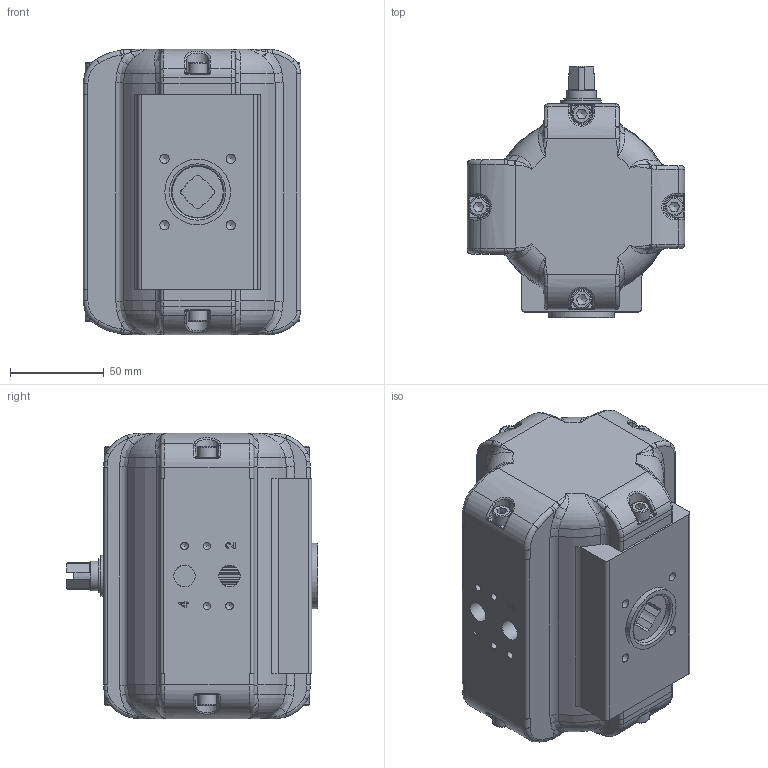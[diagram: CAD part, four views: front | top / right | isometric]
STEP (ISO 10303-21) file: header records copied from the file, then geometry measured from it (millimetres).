
FILE_DESCRIPTION(/* description */ (''),/* implementation_level */ '2;1');
FILE_NAME(/* name */ 'C:\Users\war\Desktop\ENG-100860.stp',/* time_stamp */ '2021-05-03T09:48:20+02:00',/* author */ ('war'),/* organization */ (''),/* preprocessor_version */ 'ST-DEVELOPER v18.1',/* originating_system */ 'Autodesk Inventor 2021',/* authorisation */ '');
FILE_SCHEMA (('AUTOMOTIVE_DESIGN { 1 0 10303 214 3 1 1 }'));
Length unit declared in the file: millimetre
Products named in the file (1): KOLBEN26_Shrinkwrap_1
Bounding box: 116 x 134 x 152.3 mm (x, y, z)
Volume: 609683.2 mm3; surface area: 150319.1 mm2
Topology: 1 solids, 1 shells, 912 faces, 2431 edges, 1500 vertices
Faces by surface type: cylinder 341, plane 235, bspline 171, torus 100, cone 65
Full cylindrical faces by diameter (mm): 1.7 x2, 4.134 x8, 4.917 x5, 5 x2, 10 x8, 11.445 x2, 11.8 x1, 12 x1, 14 x1, 14.9 x1, 15.8 x3, 16 x1, 16.1 x1, 19.8 x1, 20 x1, 22 x2, 23.8 x1, 24 x1, 27.8 x3, 28 x2, 35 x1, 82 x1, 85.186 x4
Entity records: 38528 total; most frequent: CARTESIAN_POINT 16264, ORIENTED_EDGE 4764, DIRECTION 4106, EDGE_CURVE 2382, AXIS2_PLACEMENT_3D 1663, VERTEX_POINT 1500, EDGE_LOOP 956, STYLED_ITEM 913
